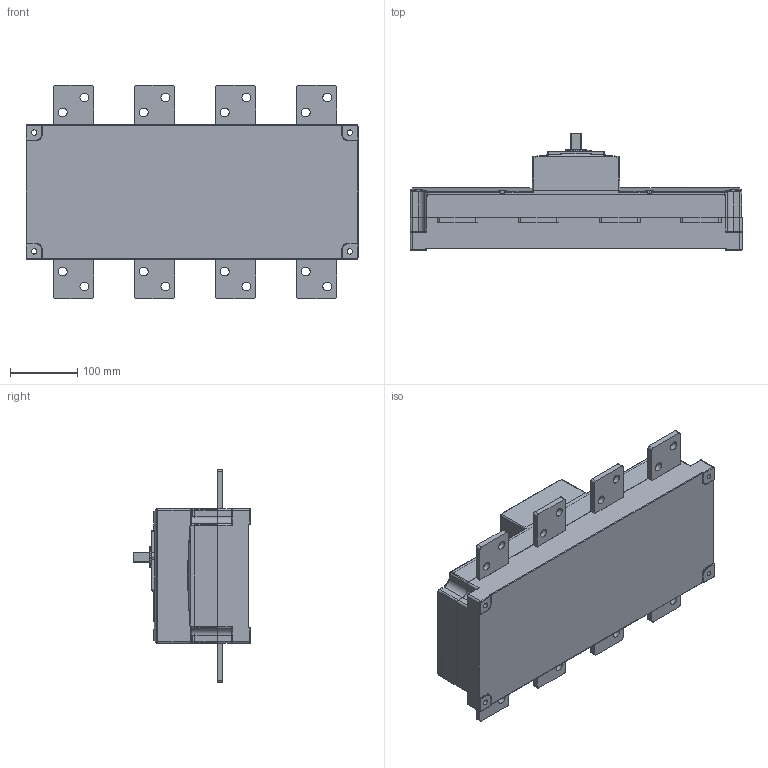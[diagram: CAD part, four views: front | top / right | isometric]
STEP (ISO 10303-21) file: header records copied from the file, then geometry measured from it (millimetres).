
FILE_DESCRIPTION((''),'2;1');
FILE_NAME('NH40-800-1000-4_ASM','2020-10-07T',('zhuanghy'),(''),'PRO/ENGINEER BY PARAMETRIC TECHNOLOGY CORPORATION, 2008380','PRO/ENGINEER BY PARAMETRIC TECHNOLOGY CORPORATION, 2008380','');
FILE_SCHEMA(('CONFIG_CONTROL_DESIGN'));
Length unit declared in the file: millimetre
Products named in the file (9): NH40-1600-4-022_68_1; 1600-4-ZG_27_1; PRT0067_1; PRT0068_1; PRT0069_1; ASM0007_ASM_1_ASM_ASM_1_ASM; NH40-1000-4_ASM_ASM_1_ASM; NH40-800-1000-4_ASM_1_ASM; NH40-800-1000-4_ASM
Assembly tree (15 placements, depth 5):
  NH40-800-1000-4_ASM
    NH40-800-1000-4_ASM_1_ASM
      NH40-1000-4_ASM_ASM_1_ASM
        ASM0007_ASM_1_ASM_ASM_1_ASM
          NH40-1600-4-022_68_1
          1600-4-ZG_27_1
          PRT0067_1
          PRT0068_1
          PRT0069_1  x8
Bounding box: 492 x 172.5 x 316 mm (x, y, z)
Volume: 12290550.1 mm3; surface area: 1352058.5 mm2
Topology: 12 solids, 15 shells, 2880 faces, 7426 edges, 4360 vertices
Faces by surface type: cylinder 1254, plane 1114, sphere 242, torus 142, bspline 94, cone 34
Entity records: 92178 total; most frequent: CARTESIAN_POINT 28009, ORIENTED_EDGE 13593, DIRECTION 13079, EDGE_CURVE 6801, AXIS2_PLACEMENT_3D 4568, VERTEX_POINT 4094, VECTOR 3943, LINE 3943
